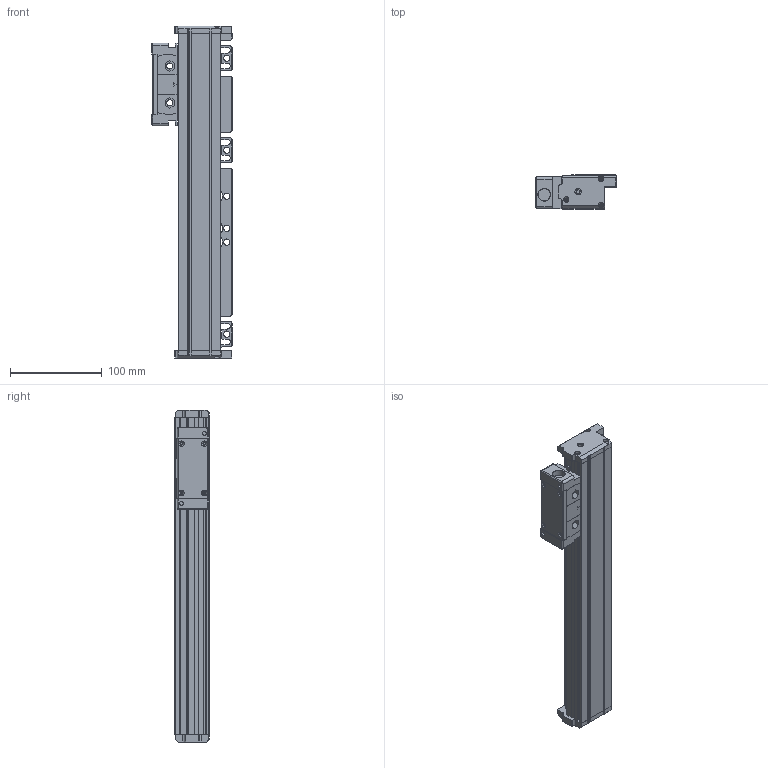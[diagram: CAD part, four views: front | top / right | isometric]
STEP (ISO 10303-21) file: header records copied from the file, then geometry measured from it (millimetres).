
FILE_DESCRIPTION(/* description */ (''),/* implementation_level */ '2;1');
FILE_NAME(/* name */ 'JC21A-240-1.stp',/* time_stamp */ '2023-12-21T16:34:09+08:00',/* author */ (''),/* organization */ (''),/* preprocessor_version */ 'ST-DEVELOPER v14',/* originating_system */ 'SIEMENS PLM Software NX 8.0',/* authorisation */ '');
FILE_SCHEMA (('CONFIG_CONTROL_DESIGN'));
Length unit declared in the file: millimetre
Products named in the file (1): JC21A-240-1
Bounding box: 87.5 x 37 x 361 mm (x, y, z)
Volume: 630354.7 mm3; surface area: 121029.8 mm2
Topology: 4 solids, 6 shells, 479 faces, 1348 edges, 889 vertices
Faces by surface type: plane 294, cylinder 153, cone 22, bspline 8, extrusion 2
Full cylindrical faces by diameter (mm): 2.5 x12, 3.3 x6, 3.7 x4, 4.2 x4, 5 x2, 6 x6, 6.6 x2, 6.8 x6, 7 x2, 13.2 x2
Entity records: 15495 total; most frequent: CARTESIAN_POINT 3139, ORIENTED_EDGE 2516, DIRECTION 2506, EDGE_CURVE 1258, VERTEX_POINT 867, VECTOR 860, LINE 858, AXIS2_PLACEMENT_3D 823
